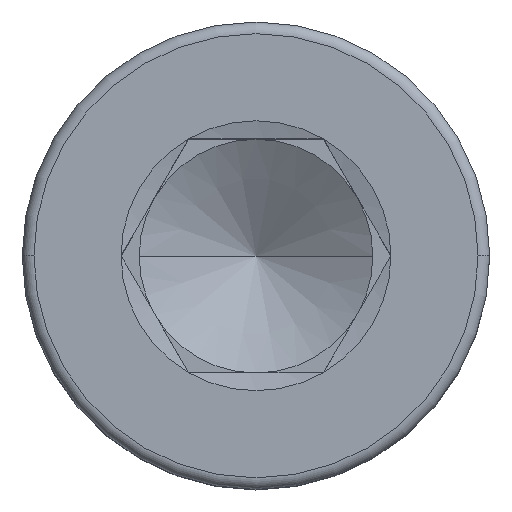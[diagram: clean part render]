
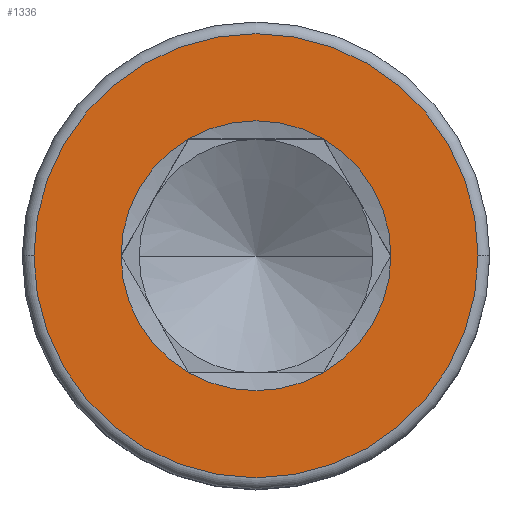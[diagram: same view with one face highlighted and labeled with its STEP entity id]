
A CAD part, top view. The second image highlights one B-rep face of the part: STEP entity #1336.
In plain terms, the highlighted planar face has unit normal (0, 0, 1).
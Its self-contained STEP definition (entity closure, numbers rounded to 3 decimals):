
#19 = CARTESIAN_POINT ( 'NONE',  ( 0., 0., 6. ) ) ;
#22 = CIRCLE ( 'NONE', #808, 2.887 ) ;
#30 = DIRECTION ( 'NONE',  ( 0., 0., 1. ) ) ;
#48 = AXIS2_PLACEMENT_3D ( 'NONE', #863, #1263, #378 ) ;
#63 = CARTESIAN_POINT ( 'NONE',  ( -2.887, 0., 6. ) ) ;
#75 = AXIS2_PLACEMENT_3D ( 'NONE', #92, #490, #1142 ) ;
#92 = CARTESIAN_POINT ( 'NONE',  ( 0., 0., 6. ) ) ;
#115 = DIRECTION ( 'NONE',  ( 1., 0., 0. ) ) ;
#118 = CARTESIAN_POINT ( 'NONE',  ( -4.75, 0., 6. ) ) ;
#130 = AXIS2_PLACEMENT_3D ( 'NONE', #791, #1564, #1190 ) ;
#137 = EDGE_LOOP ( 'NONE', ( #1155, #1248 ) ) ;
#149 = DIRECTION ( 'NONE',  ( 0., 0., 1. ) ) ;
#216 = AXIS2_PLACEMENT_3D ( 'NONE', #1072, #668, #1193 ) ;
#238 = CARTESIAN_POINT ( 'NONE',  ( 4.75, 0., 6. ) ) ;
#252 = PLANE ( 'NONE',  #75 ) ;
#339 = DIRECTION ( 'NONE',  ( 1., 0., 0. ) ) ;
#350 = DIRECTION ( 'NONE',  ( 0., 0., 1. ) ) ;
#378 = DIRECTION ( 'NONE',  ( 1., 0., 0. ) ) ;
#382 = AXIS2_PLACEMENT_3D ( 'NONE', #1126, #752, #115 ) ;
#473 = CARTESIAN_POINT ( 'NONE',  ( 0., 0., 6. ) ) ;
#490 = DIRECTION ( 'NONE',  ( 0., 0., 1. ) ) ;
#508 = CARTESIAN_POINT ( 'NONE',  ( 1.443, -2.5, 6. ) ) ;
#525 = ORIENTED_EDGE ( 'NONE', *, *, #1173, .F. ) ;
#567 = EDGE_CURVE ( 'NONE', #1255, #956, #898, .T. ) ;
#576 = ORIENTED_EDGE ( 'NONE', *, *, #896, .F. ) ;
#607 = CARTESIAN_POINT ( 'NONE',  ( 0., 0., 6. ) ) ;
#627 = VERTEX_POINT ( 'NONE', #508 ) ;
#668 = DIRECTION ( 'NONE',  ( 0., 0., 1. ) ) ;
#752 = DIRECTION ( 'NONE',  ( 0., 0., 1. ) ) ;
#781 = CIRCLE ( 'NONE', #48, 2.887 ) ;
#791 = CARTESIAN_POINT ( 'NONE',  ( 0., 0., 6. ) ) ;
#808 = AXIS2_PLACEMENT_3D ( 'NONE', #473, #1622, #1215 ) ;
#821 = EDGE_CURVE ( 'NONE', #1073, #877, #923, .T. ) ;
#835 = AXIS2_PLACEMENT_3D ( 'NONE', #607, #149, #1401 ) ;
#863 = CARTESIAN_POINT ( 'NONE',  ( 0., 0., 6. ) ) ;
#867 = ORIENTED_EDGE ( 'NONE', *, *, #933, .F. ) ;
#877 = VERTEX_POINT ( 'NONE', #1518 ) ;
#885 = EDGE_LOOP ( 'NONE', ( #525, #1540, #867, #1597, #576, #1395 ) ) ;
#890 = EDGE_CURVE ( 'NONE', #1566, #1480, #781, .T. ) ;
#896 = EDGE_CURVE ( 'NONE', #1480, #1073, #970, .T. ) ;
#898 = CIRCLE ( 'NONE', #216, 4.75 ) ;
#923 = CIRCLE ( 'NONE', #1135, 2.887 ) ;
#933 = EDGE_CURVE ( 'NONE', #877, #627, #1280, .T. ) ;
#956 = VERTEX_POINT ( 'NONE', #238 ) ;
#970 = CIRCLE ( 'NONE', #835, 2.887 ) ;
#1018 = EDGE_CURVE ( 'NONE', #956, #1255, #1097, .T. ) ;
#1066 = DIRECTION ( 'NONE',  ( 1., 0., 0. ) ) ;
#1072 = CARTESIAN_POINT ( 'NONE',  ( 0., 0., 6. ) ) ;
#1073 = VERTEX_POINT ( 'NONE', #63 ) ;
#1097 = CIRCLE ( 'NONE', #382, 4.75 ) ;
#1102 = CARTESIAN_POINT ( 'NONE',  ( 2.887, 0., 6. ) ) ;
#1126 = CARTESIAN_POINT ( 'NONE',  ( 0., 0., 6. ) ) ;
#1135 = AXIS2_PLACEMENT_3D ( 'NONE', #19, #30, #1066 ) ;
#1142 = DIRECTION ( 'NONE',  ( 1., 0., 0. ) ) ;
#1146 = EDGE_CURVE ( 'NONE', #627, #1533, #1590, .T. ) ;
#1155 = ORIENTED_EDGE ( 'NONE', *, *, #1018, .T. ) ;
#1173 = EDGE_CURVE ( 'NONE', #1533, #1566, #22, .T. ) ;
#1190 = DIRECTION ( 'NONE',  ( 1., 0., 0. ) ) ;
#1193 = DIRECTION ( 'NONE',  ( 1., 0., 0. ) ) ;
#1215 = DIRECTION ( 'NONE',  ( 1., 0., 0. ) ) ;
#1232 = CARTESIAN_POINT ( 'NONE',  ( 1.443, 2.5, 6. ) ) ;
#1248 = ORIENTED_EDGE ( 'NONE', *, *, #567, .T. ) ;
#1255 = VERTEX_POINT ( 'NONE', #118 ) ;
#1263 = DIRECTION ( 'NONE',  ( 0., 0., 1. ) ) ;
#1280 = CIRCLE ( 'NONE', #130, 2.887 ) ;
#1336 = ADVANCED_FACE ( 'NONE', ( #1417, #1554 ), #252, .T. ) ;
#1353 = CARTESIAN_POINT ( 'NONE',  ( -1.443, 2.5, 6. ) ) ;
#1362 = AXIS2_PLACEMENT_3D ( 'NONE', #1612, #350, #339 ) ;
#1395 = ORIENTED_EDGE ( 'NONE', *, *, #890, .F. ) ;
#1401 = DIRECTION ( 'NONE',  ( 1., 0., 0. ) ) ;
#1417 = FACE_OUTER_BOUND ( 'NONE', #137, .T. ) ;
#1480 = VERTEX_POINT ( 'NONE', #1353 ) ;
#1518 = CARTESIAN_POINT ( 'NONE',  ( -1.443, -2.5, 6. ) ) ;
#1533 = VERTEX_POINT ( 'NONE', #1102 ) ;
#1540 = ORIENTED_EDGE ( 'NONE', *, *, #1146, .F. ) ;
#1554 = FACE_BOUND ( 'NONE', #885, .T. ) ;
#1564 = DIRECTION ( 'NONE',  ( 0., 0., 1. ) ) ;
#1566 = VERTEX_POINT ( 'NONE', #1232 ) ;
#1590 = CIRCLE ( 'NONE', #1362, 2.887 ) ;
#1597 = ORIENTED_EDGE ( 'NONE', *, *, #821, .F. ) ;
#1612 = CARTESIAN_POINT ( 'NONE',  ( 0., 0., 6. ) ) ;
#1622 = DIRECTION ( 'NONE',  ( 0., 0., 1. ) ) ;
